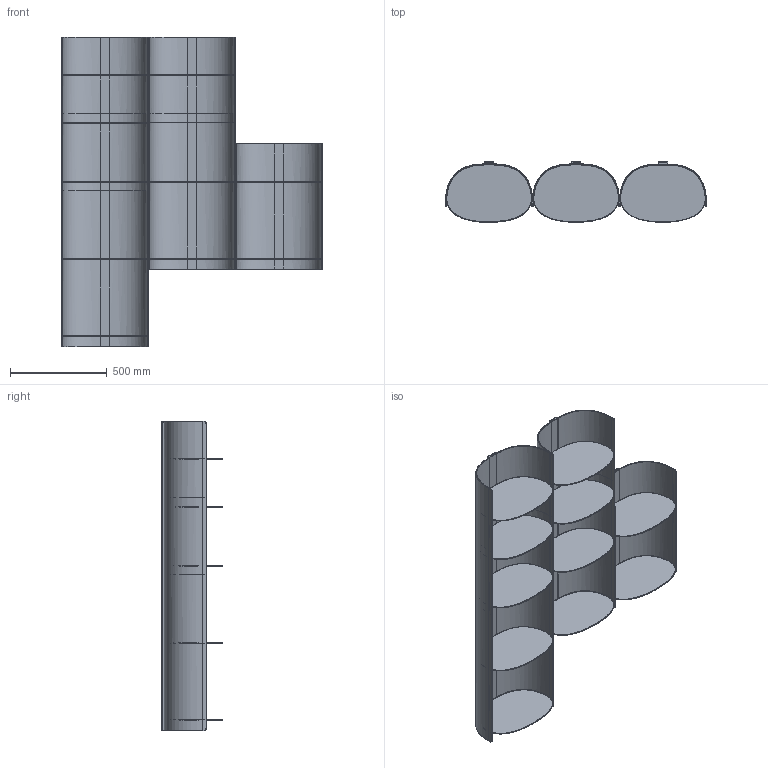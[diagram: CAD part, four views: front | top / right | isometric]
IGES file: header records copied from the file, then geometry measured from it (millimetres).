
Global section: file name: /Volumes/Clients/Pulpo/20210922_CASACOMO_Shelf/Export/202207_Pulpo_Comoshelf_complete.igs; native system: Rhinoceros ( Jun 14 2022 ); preprocessor: Trout Lake IGES 012 Jun 14 2022; date: 220705.075552; units: millimetre
Bounding box: 1349.5 x 311.97 x 1600 mm (x, y, z)
Surface area: 7934385.9 mm2 (no closed solid volume)
Topology: 0 solids, 0 shells, 464 faces, 5132 edges, 5132 vertices
Faces by surface type: bspline 464
